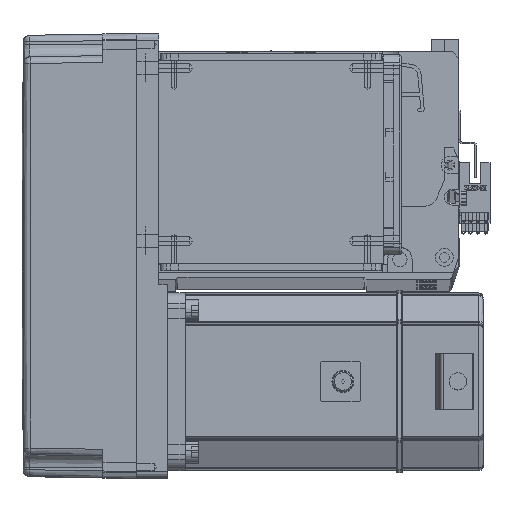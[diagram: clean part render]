
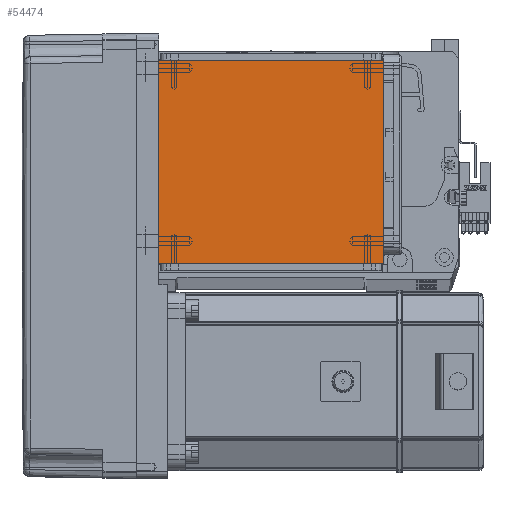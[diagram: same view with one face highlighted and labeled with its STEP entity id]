
A CAD part, top view. The second image highlights one B-rep face of the part: STEP entity #54474.
In plain terms, the highlighted planar face has unit normal (0, 0, 1).
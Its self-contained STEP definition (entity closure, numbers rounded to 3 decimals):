
#3901 = EDGE_CURVE ( 'NONE', #21003, #65081, #8761, .T. ) ;
#5687 = PLANE ( 'NONE',  #43109 ) ;
#6636 = ORIENTED_EDGE ( 'NONE', *, *, #7875, .F. ) ;
#7576 = CARTESIAN_POINT ( 'NONE',  ( 50.5, 20., 115. ) ) ;
#7875 = EDGE_CURVE ( 'NONE', #21003, #24208, #65845, .T. ) ;
#8761 = LINE ( 'NONE', #51464, #23844 ) ;
#9006 = CARTESIAN_POINT ( 'NONE',  ( 50.5, 111.5, 115. ) ) ;
#10206 = VECTOR ( 'NONE', #43854, 1000. ) ;
#11726 = DIRECTION ( 'NONE',  ( 0., 1., 0. ) ) ;
#13350 = LINE ( 'NONE', #64283, #28419 ) ;
#14761 = VERTEX_POINT ( 'NONE', #52894 ) ;
#21003 = VERTEX_POINT ( 'NONE', #7576 ) ;
#21190 = LINE ( 'NONE', #28606, #55363 ) ;
#21461 = EDGE_CURVE ( 'NONE', #14761, #65081, #13350, .T. ) ;
#22595 = EDGE_LOOP ( 'NONE', ( #37096, #52160, #6636, #57956 ) ) ;
#23844 = VECTOR ( 'NONE', #11726, 1000. ) ;
#23934 = DIRECTION ( 'NONE',  ( 0., -1., 0. ) ) ;
#24208 = VERTEX_POINT ( 'NONE', #46025 ) ;
#28419 = VECTOR ( 'NONE', #28521, 1000. ) ;
#28521 = DIRECTION ( 'NONE',  ( 1., 0., 0. ) ) ;
#28606 = CARTESIAN_POINT ( 'NONE',  ( -50.5, 122., 115. ) ) ;
#30402 = EDGE_CURVE ( 'NONE', #14761, #24208, #21190, .T. ) ;
#37096 = ORIENTED_EDGE ( 'NONE', *, *, #21461, .F. ) ;
#37644 = FACE_OUTER_BOUND ( 'NONE', #22595, .T. ) ;
#41447 = DIRECTION ( 'NONE',  ( 1., 0., 0. ) ) ;
#43109 = AXIS2_PLACEMENT_3D ( 'NONE', #62104, #56746, #41447 ) ;
#43854 = DIRECTION ( 'NONE',  ( -1., 0., 0. ) ) ;
#44286 = CARTESIAN_POINT ( 'NONE',  ( -70.004, 20., 115. ) ) ;
#46025 = CARTESIAN_POINT ( 'NONE',  ( -50.5, 20., 115. ) ) ;
#51464 = CARTESIAN_POINT ( 'NONE',  ( 50.5, 122., 115. ) ) ;
#52160 = ORIENTED_EDGE ( 'NONE', *, *, #30402, .T. ) ;
#52894 = CARTESIAN_POINT ( 'NONE',  ( -50.5, 111.5, 115. ) ) ;
#54474 = ADVANCED_FACE ( 'NONE', ( #37644 ), #5687, .T. ) ;
#55363 = VECTOR ( 'NONE', #23934, 1000. ) ;
#56746 = DIRECTION ( 'NONE',  ( 0., 0., 1. ) ) ;
#57956 = ORIENTED_EDGE ( 'NONE', *, *, #3901, .T. ) ;
#62104 = CARTESIAN_POINT ( 'NONE',  ( 0., 0., 115. ) ) ;
#64283 = CARTESIAN_POINT ( 'NONE',  ( -70.004, 111.5, 115. ) ) ;
#65081 = VERTEX_POINT ( 'NONE', #9006 ) ;
#65845 = LINE ( 'NONE', #44286, #10206 ) ;
